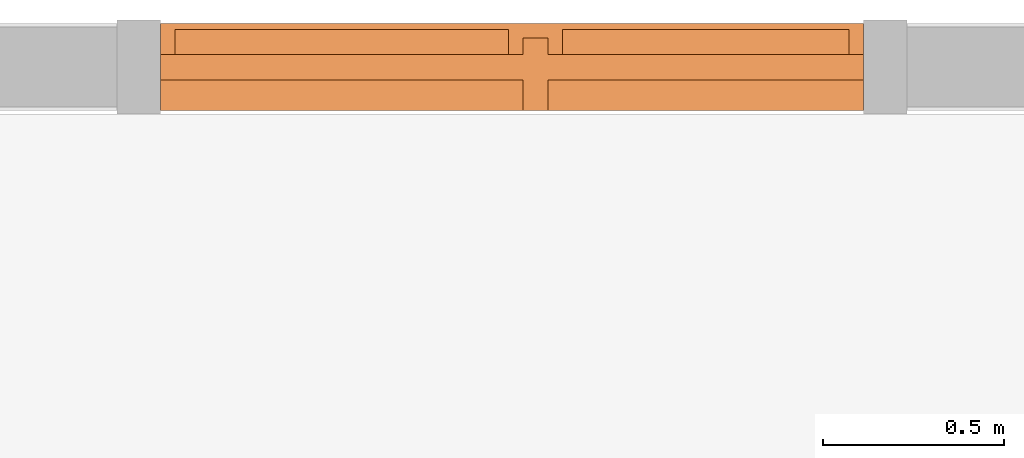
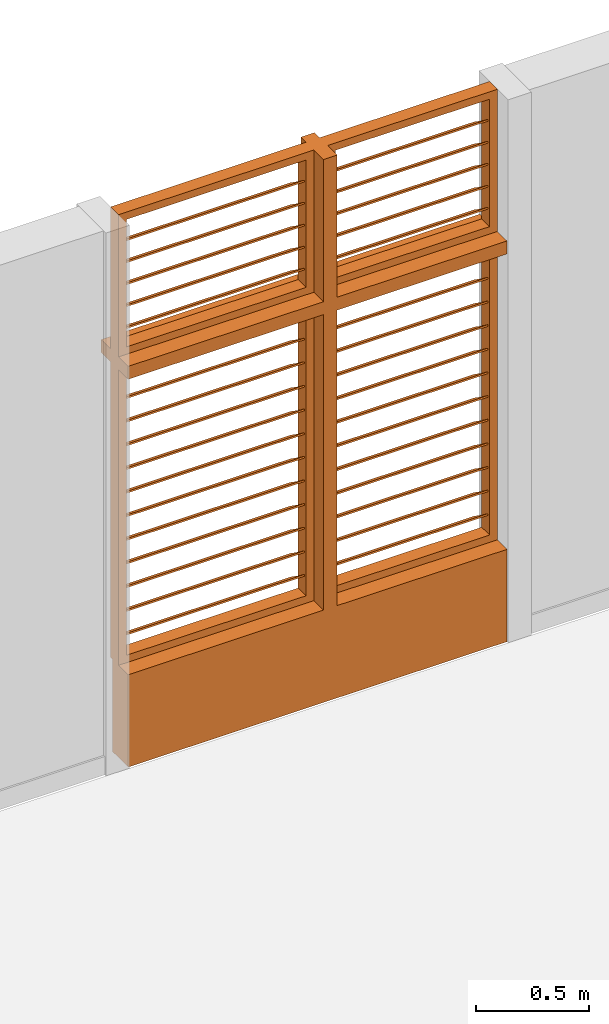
# One storey, part 14 of 15: 1 proxy.
"""IFC2X3 building model written with IfcOpenShell, lengths in metres."""

import ifcopenshell
import ifcopenshell.guid

model = None  # the IFC model being written
_history = None  # IfcOwnerHistory: only IFC2X3 demands one
_inside = {}  # id of a spatial element -> (the spatial element, [elements in it])
_under = {}  # id of a project, library or spatial element -> (it, [spatial elements below it])
_declared = {}  # id of a project -> (the project, [libraries it declares])
_typed = {}  # id of a type object -> (the type object, [elements of that type])
_made_of = {}  # id of a material, layer set ... -> (it, [elements and type objects made of it])


def new_model(schema):
    """Start an empty IFC model of exactly this schema.

    Asked for "IFC4X3", IfcOpenShell would pick the latest addendum, in which some entities
    have other attributes; the version numbers below select the first issue.
    IFC2X3 requires an IfcOwnerHistory on every rooted entity: one is made here for all.
    """
    global model, _history
    if schema == "IFC4X3":
        model = ifcopenshell.file(schema_version=(4, 3, 0, 0))
    else:
        model = ifcopenshell.file(schema=schema)
    _inside.clear()
    _under.clear()
    _declared.clear()
    _typed.clear()
    _made_of.clear()
    _history = None
    if model.schema == "IFC2X3":
        org = make("IfcOrganization", Name="unknown")
        user = make(
            "IfcPersonAndOrganization",
            ThePerson=make("IfcPerson", FamilyName="unknown"),
            TheOrganization=org,
        )
        app = make(
            "IfcApplication",
            ApplicationDeveloper=org,
            Version="unknown",
            ApplicationFullName="unknown",
            ApplicationIdentifier="unknown",
        )
        _history = make(
            "IfcOwnerHistory",
            OwningUser=user,
            OwningApplication=app,
            ChangeAction="ADDED",
            CreationDate=0,
        )
    return model


def make(cls, **values):
    """One entity of the class cls with the attributes given. An attribute that is None is left unset."""
    return model.create_entity(
        cls, **{name: value for name, value in values.items() if value is not None}
    )


def entity(cls, *values):
    """Any entity or typed value of the class cls, its attributes in the order of the schema. None: left unset."""
    e = model.create_entity(cls)
    for i, value in enumerate(values):
        if value is not None:
            e[i] = value
    return e


def rooted(cls, **values):
    """An entity with a GlobalId (a new one), such as an element, a storey or a relation."""
    return make(cls, GlobalId=ifcopenshell.guid.new(), OwnerHistory=_history, **values)


def si_unit(unit_type, name, prefix=None):
    """IfcSIUnit, for example si_unit("LENGTHUNIT", "METRE", prefix="MILLI")."""
    return make("IfcSIUnit", UnitType=unit_type, Prefix=prefix, Name=name)


def converted_unit(unit_type, name, factor, base, dimensions=None, offset=None):
    """IfcConversionBasedUnit, such as the inch: factor (a typed value) times the base unit."""
    return make(
        "IfcConversionBasedUnit"
        if offset is None
        else "IfcConversionBasedUnitWithOffset",
        ConversionOffset=offset,
        Dimensions=None
        if dimensions is None
        else entity("IfcDimensionalExponents", *dimensions),
        UnitType=unit_type,
        Name=name,
        ConversionFactor=make(
            "IfcMeasureWithUnit", ValueComponent=factor, UnitComponent=base
        ),
    )


def derived_unit(unit_type, elements):
    """IfcDerivedUnit: a product of units, each with its exponent."""
    return make(
        "IfcDerivedUnit",
        Elements=[
            make("IfcDerivedUnitElement", Unit=unit, Exponent=power)
            for unit, power in elements
        ],
        UnitType=unit_type,
    )


def assignment(units):
    """IfcUnitAssignment: the units of a project."""
    return None if units is None else make("IfcUnitAssignment", Units=units)


def point(xyz):
    """IfcCartesianPoint."""
    return None if xyz is None else make("IfcCartesianPoint", Coordinates=xyz)


def direction(xyz):
    """IfcDirection."""
    return None if xyz is None else make("IfcDirection", DirectionRatios=xyz)


def frame(location, z_axis=None, x_axis=None):
    """IfcAxis2Placement3D, a coordinate frame: its origin and axes. An axis left out is left unset."""
    return make(
        "IfcAxis2Placement3D",
        Location=point(location),
        Axis=direction(z_axis),
        RefDirection=direction(x_axis),
    )


def frame_2d(location, x_axis=None):
    """IfcAxis2Placement2D, a coordinate frame in the plane: its origin and x axis."""
    return make(
        "IfcAxis2Placement2D", Location=point(location), RefDirection=direction(x_axis)
    )


def origin():
    """The frame at (0, 0, 0) with its axes left unset."""
    return frame((0.0, 0.0, 0.0))


def origin_2d_with_axis():
    """The frame at (0, 0) in the plane with the x axis (1, 0) written out."""
    return frame_2d((0.0, 0.0), x_axis=(1.0, 0.0))


def place(relative_to, where):
    """IfcLocalPlacement: puts the frame where relative to a parent placement (None: the world)."""
    return make(
        "IfcLocalPlacement", PlacementRelTo=relative_to, RelativePlacement=where
    )


def context(
    kind, dimensions, precision=None, world=None, true_north=None, identifier=None
):
    """IfcGeometricRepresentationContext, for example the 3D "Model" context."""
    return make(
        "IfcGeometricRepresentationContext",
        ContextIdentifier=identifier,
        ContextType=kind,
        CoordinateSpaceDimension=dimensions,
        Precision=precision,
        WorldCoordinateSystem=world,
        TrueNorth=true_north,
    )


def subcontext(parent, identifier, kind, view, scale=None):
    """IfcGeometricRepresentationSubContext, for example "Body" below "Model"."""
    return make(
        "IfcGeometricRepresentationSubContext",
        ContextIdentifier=identifier,
        ContextType=kind,
        ParentContext=parent,
        TargetScale=scale,
        TargetView=view,
    )


def project(units=None, contexts=None):
    """IfcProject with its units and contexts."""
    return rooted(
        "IfcProject",
        Name="project",
        RepresentationContexts=contexts,
        UnitsInContext=assignment(units),
    )


def spatial(cls, under=None, at=None, **own):
    """A site, building, storey or space (cls), placed at a placement, below another one or the project."""
    s = rooted(cls, ObjectPlacement=at, **own)
    if under is not None:
        _under.setdefault(under.id(), (under, []))[1].append(s)
    return s


def polyline(points):
    """IfcPolyline through the points."""
    return make("IfcPolyline", Points=[point(p) for p in points])


def profile(cls, at=None, kind="AREA", **sizes):
    """A parametric profile (cls). Its sizes go by their IFC names, for example OverallWidth=200.0."""
    return make(cls, ProfileType=kind, Position=at, **sizes)


def rectangle(**sizes):
    """IfcRectangleProfileDef."""
    return profile("IfcRectangleProfileDef", **sizes)


def outline(outer, holes=None, kind="AREA"):
    """IfcArbitraryClosedProfileDef: a profile drawn as a closed curve; with holes, ...WithVoids."""
    if holes is None:
        return make("IfcArbitraryClosedProfileDef", ProfileType=kind, OuterCurve=outer)
    return make(
        "IfcArbitraryProfileDefWithVoids",
        ProfileType=kind,
        OuterCurve=outer,
        InnerCurves=holes,
    )


def extrude(swept, where, along, depth):
    """IfcExtrudedAreaSolid: the profile swept, set in the frame where, extruded along a direction by depth."""
    return make(
        "IfcExtrudedAreaSolid",
        SweptArea=swept,
        Position=where,
        ExtrudedDirection=direction(along),
        Depth=depth,
    )


def shape(context_of_items, identifier, shape_type, items):
    """IfcShapeRepresentation: the items that make up one representation, for example the "Body"."""
    return make(
        "IfcShapeRepresentation",
        ContextOfItems=context_of_items,
        RepresentationIdentifier=identifier,
        RepresentationType=shape_type,
        Items=items,
    )


def source(mapping_origin, context_of_items, identifier, shape_type, items):
    """IfcRepresentationMap: a shape defined once, which mapped items show again and again."""
    return make(
        "IfcRepresentationMap",
        MappingOrigin=mapping_origin,
        MappedRepresentation=shape(context_of_items, identifier, shape_type, items),
    )


def transform(
    local_origin,
    x_axis=None,
    y_axis=None,
    z_axis=None,
    scale=None,
    scale2=None,
    scale3=None,
    uniform=True,
):
    """IfcCartesianTransformationOperator3D, or its non-uniform kind. x_axis, y_axis, z_axis: its Axis1, 2, 3."""
    if uniform:
        return make(
            "IfcCartesianTransformationOperator3D",
            Axis1=direction(x_axis),
            Axis2=direction(y_axis),
            LocalOrigin=point(local_origin),
            Scale=scale,
            Axis3=direction(z_axis),
        )
    return make(
        "IfcCartesianTransformationOperator3DnonUniform",
        Axis1=direction(x_axis),
        Axis2=direction(y_axis),
        LocalOrigin=point(local_origin),
        Scale=scale,
        Axis3=direction(z_axis),
        Scale2=scale2,
        Scale3=scale3,
    )


def mapped(mapping_source, mapping_target):
    """IfcMappedItem: shows the shape of a source again, moved by a transform."""
    return make(
        "IfcMappedItem", MappingSource=mapping_source, MappingTarget=mapping_target
    )


def material(Name=None, Category=None):
    """IfcMaterial."""
    return make("IfcMaterial", Name=Name, Category=Category)


def material_list(materials):
    """IfcMaterialList."""
    return make("IfcMaterialList", Materials=materials)


def made_of(thing, what):
    """Note that an element or type object is made of a material, layer set ...; save() writes the relation."""
    if what is not None:
        _made_of.setdefault(what.id(), (what, []))[1].append(thing)
    return thing


def type_object(cls, material=None, **own):
    """A type object (cls), such as IfcWallType, which elements share."""
    return made_of(rooted(cls, **own), material)


def type_shapes(of_type, sources):
    """Give a type object the sources (RepresentationMaps) that its elements show as mapped items."""
    of_type.RepresentationMaps = sources


def element(
    cls,
    number,
    at=None,
    inside=None,
    cuts=None,
    type_object=None,
    material=None,
    context=None,
    identifier="Body",
    shape_type=None,
    held_by="IfcProductDefinitionShape",
    body=None,
    shapes=None,
    **own,
):
    """One element of the class cls, such as IfcWall. Its Tag is "e" and its number.

    at: its placement. inside: the storey or other place that contains it. cuts: it is an
    opening in that element (IfcRelVoidsElement). A single representation is given by context,
    identifier, shape_type and body (its items); several are given by shapes. held_by: the class
    of the entity that holds the representations. save() writes the other relations.
    """
    e = rooted(cls, Tag="e%d" % number, ObjectPlacement=at, **own)
    if body is not None:
        shapes = [shape(context, identifier, shape_type, body)]
    if shapes is not None:
        e.Representation = make(held_by, Representations=shapes)
    if inside is not None:
        _inside.setdefault(inside.id(), (inside, []))[1].append(e)
    if cuts is not None:
        rooted(
            "IfcRelVoidsElement", RelatingBuildingElement=cuts, RelatedOpeningElement=e
        )
    if type_object is not None:
        _typed.setdefault(type_object.id(), (type_object, []))[1].append(e)
    return made_of(e, material)


def aggregate(whole, parts):
    """IfcRelAggregates: a whole, such as a stair, and the parts it consists of."""
    return rooted("IfcRelAggregates", RelatingObject=whole, RelatedObjects=parts)


def save(model, path):
    """Write the relations noted so far, then the file.

    IfcRelAggregates (storeys below a building ...), IfcRelContainedInSpatialStructure (elements
    in a storey), IfcRelDefinesByType, IfcRelAssociatesMaterial and IfcRelDeclares: one each for
    every whole, place, type object, material and project.
    """
    for whole, parts in _under.values():
        aggregate(whole, parts)
    for where, things in _inside.values():
        rooted(
            "IfcRelContainedInSpatialStructure",
            RelatedElements=things,
            RelatingStructure=where,
        )
    for kind, things in _typed.values():
        rooted("IfcRelDefinesByType", RelatedObjects=things, RelatingType=kind)
    for what, things in _made_of.values():
        rooted("IfcRelAssociatesMaterial", RelatedObjects=things, RelatingMaterial=what)
    for by, libraries in _declared.values():
        rooted("IfcRelDeclares", RelatingContext=by, RelatedDefinitions=libraries)
    model.write(path)


model = new_model("IFC2X3")

# Units and contexts
model_context = context("Model", 3, precision=1e-05, world=origin(), true_north=direction((6.12303176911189e-17, 1.0)))
body_context = subcontext(model_context, "Body", "Model", "MODEL_VIEW")
ifc_project = project(units=[si_unit("LENGTHUNIT", "METRE"), si_unit("AREAUNIT", "SQUARE_METRE"), si_unit("VOLUMEUNIT", "CUBIC_METRE"), converted_unit("PLANEANGLEUNIT", "DEGREE", entity("IfcRatioMeasure", 0.0174532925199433), si_unit("PLANEANGLEUNIT", "RADIAN"), dimensions=[0, 0, 0, 0, 0, 0, 0]), si_unit("MASSUNIT", "GRAM", prefix="KILO"), derived_unit("MASSDENSITYUNIT", [(si_unit("MASSUNIT", "GRAM", prefix="KILO"), 1), (si_unit("LENGTHUNIT", "METRE"), -3)]), si_unit("TIMEUNIT", "SECOND"), si_unit("FREQUENCYUNIT", "HERTZ"), si_unit("THERMODYNAMICTEMPERATUREUNIT", "DEGREE_CELSIUS"), derived_unit("THERMALTRANSMITTANCEUNIT", [(si_unit("MASSUNIT", "GRAM", prefix="KILO"), 1), (si_unit("THERMODYNAMICTEMPERATUREUNIT", "KELVIN"), -1), (si_unit("TIMEUNIT", "SECOND"), -3)]), derived_unit("VOLUMETRICFLOWRATEUNIT", [(si_unit("LENGTHUNIT", "METRE"), 3), (si_unit("TIMEUNIT", "SECOND"), -1)]), si_unit("ELECTRICCURRENTUNIT", "AMPERE"), si_unit("ELECTRICVOLTAGEUNIT", "VOLT"), si_unit("POWERUNIT", "WATT"), si_unit("FORCEUNIT", "NEWTON", prefix="KILO"), si_unit("ILLUMINANCEUNIT", "LUX"), si_unit("LUMINOUSFLUXUNIT", "LUMEN"), si_unit("LUMINOUSINTENSITYUNIT", "CANDELA"), derived_unit("USERDEFINED", [(si_unit("MASSUNIT", "GRAM", prefix="KILO"), -1), (si_unit("LENGTHUNIT", "METRE"), -2), (si_unit("TIMEUNIT", "SECOND"), 3), (si_unit("LUMINOUSFLUXUNIT", "LUMEN"), 1)]), derived_unit("LINEARVELOCITYUNIT", [(si_unit("LENGTHUNIT", "METRE"), 1), (si_unit("TIMEUNIT", "SECOND"), -1)]), si_unit("PRESSUREUNIT", "PASCAL"), derived_unit("USERDEFINED", [(si_unit("LENGTHUNIT", "METRE"), -2), (si_unit("MASSUNIT", "GRAM", prefix="KILO"), 1), (si_unit("TIMEUNIT", "SECOND"), -2)])], contexts=[model_context])

# Site, building, storey
site_placement = place(None, origin())
site = spatial("IfcSite", under=ifc_project, at=site_placement, Name="Surface", CompositionType="ELEMENT")
building_placement = place(site_placement, origin())
building = spatial("IfcBuilding", under=site, at=building_placement, Name="ExPREF", CompositionType="ELEMENT")
storey_placement = place(building_placement, frame((0.0, 0.0, 7.83)))
storey = spatial("IfcBuildingStorey", under=building, at=storey_placement, Name="R+2", CompositionType="ELEMENT", Elevation=7.83)

# Proxy
ifc_material_1 = material(Name="AA-Aluminium")
ifc_material_2 = material(Name="AA-vitrage")
ifc_material_3 = material(Name="AA-bois menuiseries")
ifc_material_list_1 = material_list([ifc_material_1, ifc_material_2, ifc_material_3])
ifc_material_list_2 = material_list([ifc_material_1, ifc_material_2, ifc_material_3])
building_element_proxy_type = type_object("IfcBuildingElementProxyType", Name="R+2 naco + naco", PredefinedType="NOTDEFINED", material=ifc_material_list_2)
shared_shape = source(origin(), body_context, "Body", "SweptSolid", [
    extrude(rectangle(XDim=0.00770243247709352, YDim=0.0205728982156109, at=frame_2d((-2.2659825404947e-16, -1.47451495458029e-16), x_axis=(1.0, 0.0))), frame((0.139999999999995, 0.107700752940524, 2.89046018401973), z_axis=(1.0, 0.0, 0.0), x_axis=(0.0, 0.57357643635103, 0.819152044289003)), (0.0, 0.0, 1.0), 0.790000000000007),
    extrude(rectangle(XDim=0.00499999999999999, YDim=0.129427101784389, at=frame_2d((-6.93889390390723e-18, -4.33680868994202e-18), x_axis=(0.0, 1.0))), frame((0.139999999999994, 0.169165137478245, 2.84748191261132), z_axis=(1.0, 0.0, 0.0), x_axis=(0.0, 0.819152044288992, -0.573576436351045)), (0.0, 0.0, 1.0), 0.790000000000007),
    extrude(rectangle(XDim=0.00770243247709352, YDim=0.0205728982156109, at=frame_2d((-2.2659825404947e-16, -1.47451495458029e-16), x_axis=(1.0, 0.0))), frame((-0.930000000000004, 0.107700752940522, 2.89046018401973), z_axis=(1.0, 0.0, 0.0), x_axis=(0.0, 0.57357643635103, 0.819152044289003)), (0.0, 0.0, 1.0), 0.920000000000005),
    extrude(rectangle(XDim=0.00499999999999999, YDim=0.129427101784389, at=frame_2d((-6.93889390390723e-18, -4.33680868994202e-18), x_axis=(0.0, 1.0))), frame((-0.930000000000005, 0.169165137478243, 2.84748191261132), z_axis=(1.0, 0.0, 0.0), x_axis=(0.0, 0.819152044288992, -0.573576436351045)), (0.0, 0.0, 1.0), 0.920000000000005),
    extrude(rectangle(XDim=0.0077024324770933, YDim=0.0205728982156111, at=frame_2d((-1.45283091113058e-17, 2.08166817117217e-17), x_axis=(1.0, 0.0))), frame((-0.930000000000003, 0.107700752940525, 2.04446018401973), z_axis=(1.0, 0.0, 0.0), x_axis=(0.0, 0.573576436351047, 0.819152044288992)), (0.0, 0.0, 1.0), 0.920000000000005),
    extrude(rectangle(XDim=0.00499999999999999, YDim=0.129427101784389, at=frame_2d((1.38777878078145e-17, 8.45677694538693e-18), x_axis=(0.0, 1.0))), frame((-0.930000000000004, 0.169165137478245, 2.00148191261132), z_axis=(1.0, 0.0, 0.0), x_axis=(0.0, 0.819152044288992, -0.573576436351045)), (0.0, 0.0, 1.0), 0.920000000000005),
    extrude(rectangle(XDim=0.00770243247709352, YDim=0.0205728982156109, at=frame_2d((2.07082614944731e-16, 1.75207071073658e-16), x_axis=(1.0, 0.0))), frame((-0.930000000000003, 0.107700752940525, 1.91646018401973), z_axis=(1.0, 0.0, 0.0), x_axis=(0.0, 0.57357643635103, 0.819152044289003)), (0.0, 0.0, 1.0), 0.920000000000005),
    extrude(rectangle(XDim=0.00499999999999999, YDim=0.129427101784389, at=frame_2d((1.38777878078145e-17, 8.45677694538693e-18), x_axis=(0.0, 1.0))), frame((-0.930000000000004, 0.169165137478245, 1.87348191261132), z_axis=(1.0, 0.0, 0.0), x_axis=(0.0, 0.819152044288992, -0.573576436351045)), (0.0, 0.0, 1.0), 0.920000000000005),
    extrude(rectangle(XDim=0.00770243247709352, YDim=0.0205728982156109, at=frame_2d((-2.36139233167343e-16, -1.34441069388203e-16), x_axis=(1.0, 0.0))), frame((-0.930000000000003, 0.107700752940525, 1.78846018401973), z_axis=(1.0, 0.0, 0.0), x_axis=(0.0, 0.57357643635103, 0.819152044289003)), (0.0, 0.0, 1.0), 0.920000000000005),
    extrude(rectangle(XDim=0.00499999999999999, YDim=0.129427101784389, at=frame_2d((1.38777878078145e-17, 8.45677694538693e-18), x_axis=(0.0, 1.0))), frame((-0.930000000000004, 0.169165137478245, 1.74548191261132), z_axis=(1.0, 0.0, 0.0), x_axis=(0.0, 0.819152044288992, -0.573576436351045)), (0.0, 0.0, 1.0), 0.920000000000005),
    extrude(rectangle(XDim=0.00770243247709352, YDim=0.0205728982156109, at=frame_2d((2.07082614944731e-16, 1.75207071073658e-16), x_axis=(1.0, 0.0))), frame((-0.930000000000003, 0.107700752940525, 1.66046018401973), z_axis=(1.0, 0.0, 0.0), x_axis=(0.0, 0.57357643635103, 0.819152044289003)), (0.0, 0.0, 1.0), 0.920000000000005),
    extrude(rectangle(XDim=0.00499999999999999, YDim=0.129427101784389, at=frame_2d((1.38777878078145e-17, 8.45677694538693e-18), x_axis=(0.0, 1.0))), frame((-0.930000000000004, 0.169165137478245, 1.61748191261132), z_axis=(1.0, 0.0, 0.0), x_axis=(0.0, 0.819152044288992, -0.573576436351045)), (0.0, 0.0, 1.0), 0.920000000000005),
    extrude(rectangle(XDim=0.00770243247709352, YDim=0.0205728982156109, at=frame_2d((-1.45283091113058e-17, 2.08166817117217e-17), x_axis=(1.0, 0.0))), frame((-0.930000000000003, 0.107700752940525, 1.53246018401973), z_axis=(1.0, 0.0, 0.0), x_axis=(0.0, 0.57357643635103, 0.819152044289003)), (0.0, 0.0, 1.0), 0.920000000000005),
    extrude(rectangle(XDim=0.00499999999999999, YDim=0.129427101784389, at=frame_2d((1.38777878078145e-17, 8.45677694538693e-18), x_axis=(0.0, 1.0))), frame((-0.930000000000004, 0.169165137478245, 1.48948191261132), z_axis=(1.0, 0.0, 0.0), x_axis=(0.0, 0.819152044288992, -0.573576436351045)), (0.0, 0.0, 1.0), 0.920000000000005),
    extrude(rectangle(XDim=0.00770243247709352, YDim=0.0205728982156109, at=frame_2d((-1.45283091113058e-17, 2.08166817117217e-17), x_axis=(1.0, 0.0))), frame((-0.930000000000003, 0.107700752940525, 1.40446018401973), z_axis=(1.0, 0.0, 0.0), x_axis=(0.0, 0.57357643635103, 0.819152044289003)), (0.0, 0.0, 1.0), 0.920000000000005),
    extrude(rectangle(XDim=0.00499999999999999, YDim=0.129427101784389, at=frame_2d((1.38777878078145e-17, 8.45677694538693e-18), x_axis=(0.0, 1.0))), frame((-0.930000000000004, 0.169165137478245, 1.36148191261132), z_axis=(1.0, 0.0, 0.0), x_axis=(0.0, 0.819152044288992, -0.573576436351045)), (0.0, 0.0, 1.0), 0.920000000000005),
    extrude(rectangle(XDim=0.00770243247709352, YDim=0.0205728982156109, at=frame_2d((-1.45283091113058e-17, 2.08166817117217e-17), x_axis=(1.0, 0.0))), frame((-0.930000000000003, 0.107700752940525, 1.27646018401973), z_axis=(1.0, 0.0, 0.0), x_axis=(0.0, 0.57357643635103, 0.819152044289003)), (0.0, 0.0, 1.0), 0.920000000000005),
    extrude(rectangle(XDim=0.00499999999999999, YDim=0.129427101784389, at=frame_2d((1.38777878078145e-17, 8.45677694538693e-18), x_axis=(0.0, 1.0))), frame((-0.930000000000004, 0.169165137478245, 1.23348191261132), z_axis=(1.0, 0.0, 0.0), x_axis=(0.0, 0.819152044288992, -0.573576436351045)), (0.0, 0.0, 1.0), 0.920000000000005),
    extrude(rectangle(XDim=0.00770243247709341, YDim=0.020572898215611, at=frame_2d((-7.00394603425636e-17, -1.90819582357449e-17), x_axis=(1.0, 0.0))), frame((-0.930000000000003, 0.107700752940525, 1.14846018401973), z_axis=(1.0, 0.0, 0.0), x_axis=(0.0, 0.573576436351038, 0.819152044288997)), (0.0, 0.0, 1.0), 0.920000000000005),
    extrude(rectangle(XDim=0.00500000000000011, YDim=0.129427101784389, at=frame_2d((9.0205620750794e-17, -1.03649727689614e-16), x_axis=(0.0, 1.0))), frame((-0.930000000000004, 0.169165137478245, 1.10548191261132), z_axis=(1.0, 0.0, 0.0), x_axis=(0.0, 0.819152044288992, -0.573576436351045)), (0.0, 0.0, 1.0), 0.920000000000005),
    extrude(rectangle(XDim=0.00770243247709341, YDim=0.020572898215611, at=frame_2d((-7.00394603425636e-17, -1.90819582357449e-17), x_axis=(1.0, 0.0))), frame((-0.930000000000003, 0.107700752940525, 1.02046018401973), z_axis=(1.0, 0.0, 0.0), x_axis=(0.0, 0.573576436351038, 0.819152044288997)), (0.0, 0.0, 1.0), 0.920000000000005),
    extrude(rectangle(XDim=0.00500000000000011, YDim=0.129427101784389, at=frame_2d((9.0205620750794e-17, -1.03649727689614e-16), x_axis=(0.0, 1.0))), frame((-0.930000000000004, 0.169165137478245, 0.977481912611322), z_axis=(1.0, 0.0, 0.0), x_axis=(0.0, 0.819152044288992, -0.573576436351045)), (0.0, 0.0, 1.0), 0.920000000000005),
    extrude(rectangle(XDim=0.00770243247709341, YDim=0.020572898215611, at=frame_2d((-7.00394603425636e-17, -1.90819582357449e-17), x_axis=(1.0, 0.0))), frame((-0.930000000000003, 0.107700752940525, 0.892460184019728), z_axis=(1.0, 0.0, 0.0), x_axis=(0.0, 0.573576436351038, 0.819152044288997)), (0.0, 0.0, 1.0), 0.920000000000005),
    extrude(rectangle(XDim=0.00500000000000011, YDim=0.129427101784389, at=frame_2d((9.0205620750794e-17, -1.03649727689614e-16), x_axis=(0.0, 1.0))), frame((-0.930000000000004, 0.169165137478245, 0.849481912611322), z_axis=(1.0, 0.0, 0.0), x_axis=(0.0, 0.819152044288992, -0.573576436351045)), (0.0, 0.0, 1.0), 0.920000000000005),
    extrude(rectangle(XDim=0.00770243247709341, YDim=0.020572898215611, at=frame_2d((-7.00394603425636e-17, -1.90819582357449e-17), x_axis=(1.0, 0.0))), frame((-0.930000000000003, 0.107700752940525, 0.764460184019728), z_axis=(1.0, 0.0, 0.0), x_axis=(0.0, 0.573576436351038, 0.819152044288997)), (0.0, 0.0, 1.0), 0.920000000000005),
    extrude(rectangle(XDim=0.00499999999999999, YDim=0.129427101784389, at=frame_2d((1.38777878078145e-17, 8.45677694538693e-18), x_axis=(0.0, 1.0))), frame((-0.930000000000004, 0.169165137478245, 0.721481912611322), z_axis=(1.0, 0.0, 0.0), x_axis=(0.0, 0.819152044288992, -0.573576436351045)), (0.0, 0.0, 1.0), 0.920000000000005),
    extrude(rectangle(XDim=0.00770243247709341, YDim=0.020572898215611, at=frame_2d((-7.00394603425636e-17, -1.90819582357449e-17), x_axis=(1.0, 0.0))), frame((-0.930000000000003, 0.107700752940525, 0.636460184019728), z_axis=(1.0, 0.0, 0.0), x_axis=(0.0, 0.573576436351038, 0.819152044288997)), (0.0, 0.0, 1.0), 0.920000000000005),
    extrude(rectangle(XDim=0.00499999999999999, YDim=0.129427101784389, at=frame_2d((6.93889390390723e-18, 1.04083408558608e-17), x_axis=(0.0, 1.0))), frame((-0.930000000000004, 0.169165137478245, 0.593481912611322), z_axis=(1.0, 0.0, 0.0), x_axis=(0.0, 0.819152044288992, -0.573576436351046)), (0.0, 0.0, 1.0), 0.920000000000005),
    extrude(rectangle(XDim=0.00770243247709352, YDim=0.0205728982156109, at=frame_2d((2.07082614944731e-16, 1.75207071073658e-16), x_axis=(1.0, 0.0))), frame((0.139999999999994, 0.107700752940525, 2.04446018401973), z_axis=(1.0, 0.0, 0.0), x_axis=(0.0, 0.57357643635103, 0.819152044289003)), (0.0, 0.0, 1.0), 0.790000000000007),
    extrude(rectangle(XDim=0.00499999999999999, YDim=0.129427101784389, at=frame_2d((-6.93889390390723e-18, -4.33680868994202e-18), x_axis=(0.0, 1.0))), frame((0.139999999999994, 0.169165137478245, 2.00148191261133), z_axis=(1.0, 0.0, 0.0), x_axis=(0.0, 0.819152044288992, -0.573576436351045)), (0.0, 0.0, 1.0), 0.790000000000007),
    extrude(rectangle(XDim=0.0077024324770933, YDim=0.0205728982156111, at=frame_2d((-1.45283091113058e-17, 2.08166817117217e-17), x_axis=(1.0, 0.0))), frame((0.139999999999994, 0.107700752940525, 1.91646018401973), z_axis=(1.0, 0.0, 0.0), x_axis=(0.0, 0.573576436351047, 0.819152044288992)), (0.0, 0.0, 1.0), 0.790000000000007),
    extrude(rectangle(XDim=0.00499999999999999, YDim=0.129427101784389, at=frame_2d((-6.93889390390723e-18, -4.33680868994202e-18), x_axis=(0.0, 1.0))), frame((0.139999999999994, 0.169165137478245, 1.87348191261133), z_axis=(1.0, 0.0, 0.0), x_axis=(0.0, 0.819152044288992, -0.573576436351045)), (0.0, 0.0, 1.0), 0.790000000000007),
    extrude(rectangle(XDim=0.0077024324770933, YDim=0.0205728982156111, at=frame_2d((-1.45283091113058e-17, 2.08166817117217e-17), x_axis=(1.0, 0.0))), frame((0.139999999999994, 0.107700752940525, 1.78846018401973), z_axis=(1.0, 0.0, 0.0), x_axis=(0.0, 0.573576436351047, 0.819152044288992)), (0.0, 0.0, 1.0), 0.790000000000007),
    extrude(rectangle(XDim=0.00499999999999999, YDim=0.129427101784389, at=frame_2d((-6.93889390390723e-18, -4.33680868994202e-18), x_axis=(0.0, 1.0))), frame((0.139999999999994, 0.169165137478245, 1.74548191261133), z_axis=(1.0, 0.0, 0.0), x_axis=(0.0, 0.819152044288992, -0.573576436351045)), (0.0, 0.0, 1.0), 0.790000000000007),
    extrude(rectangle(XDim=0.0077024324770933, YDim=0.0205728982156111, at=frame_2d((-1.45283091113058e-17, 2.08166817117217e-17), x_axis=(1.0, 0.0))), frame((0.139999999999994, 0.107700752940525, 1.66046018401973), z_axis=(1.0, 0.0, 0.0), x_axis=(0.0, 0.573576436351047, 0.819152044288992)), (0.0, 0.0, 1.0), 0.790000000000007),
    extrude(rectangle(XDim=0.00499999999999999, YDim=0.129427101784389, at=frame_2d((-6.93889390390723e-18, -4.33680868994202e-18), x_axis=(0.0, 1.0))), frame((0.139999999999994, 0.169165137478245, 1.61748191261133), z_axis=(1.0, 0.0, 0.0), x_axis=(0.0, 0.819152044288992, -0.573576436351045)), (0.0, 0.0, 1.0), 0.790000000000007),
    extrude(rectangle(XDim=0.0077024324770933, YDim=0.0205728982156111, at=frame_2d((-1.45283091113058e-17, 2.08166817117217e-17), x_axis=(1.0, 0.0))), frame((0.139999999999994, 0.107700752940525, 1.53246018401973), z_axis=(1.0, 0.0, 0.0), x_axis=(0.0, 0.573576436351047, 0.819152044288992)), (0.0, 0.0, 1.0), 0.790000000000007),
    extrude(rectangle(XDim=0.00499999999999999, YDim=0.129427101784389, at=frame_2d((-6.93889390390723e-18, -4.33680868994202e-18), x_axis=(0.0, 1.0))), frame((0.139999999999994, 0.169165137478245, 1.48948191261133), z_axis=(1.0, 0.0, 0.0), x_axis=(0.0, 0.819152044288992, -0.573576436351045)), (0.0, 0.0, 1.0), 0.790000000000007),
    extrude(rectangle(XDim=0.0077024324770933, YDim=0.0205728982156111, at=frame_2d((-1.45283091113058e-17, 2.08166817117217e-17), x_axis=(1.0, 0.0))), frame((0.139999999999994, 0.107700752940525, 1.40446018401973), z_axis=(1.0, 0.0, 0.0), x_axis=(0.0, 0.573576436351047, 0.819152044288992)), (0.0, 0.0, 1.0), 0.790000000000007),
    extrude(rectangle(XDim=0.00499999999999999, YDim=0.129427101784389, at=frame_2d((-6.93889390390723e-18, -4.33680868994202e-18), x_axis=(0.0, 1.0))), frame((0.139999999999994, 0.169165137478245, 1.36148191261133), z_axis=(1.0, 0.0, 0.0), x_axis=(0.0, 0.819152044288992, -0.573576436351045)), (0.0, 0.0, 1.0), 0.790000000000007),
    extrude(rectangle(XDim=0.0077024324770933, YDim=0.0205728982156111, at=frame_2d((-1.45283091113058e-17, 2.08166817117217e-17), x_axis=(1.0, 0.0))), frame((0.139999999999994, 0.107700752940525, 1.27646018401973), z_axis=(1.0, 0.0, 0.0), x_axis=(0.0, 0.573576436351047, 0.819152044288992)), (0.0, 0.0, 1.0), 0.790000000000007),
    extrude(rectangle(XDim=0.00499999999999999, YDim=0.129427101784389, at=frame_2d((-6.93889390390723e-18, -4.33680868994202e-18), x_axis=(0.0, 1.0))), frame((0.139999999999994, 0.169165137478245, 1.23348191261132), z_axis=(1.0, 0.0, 0.0), x_axis=(0.0, 0.819152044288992, -0.573576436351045)), (0.0, 0.0, 1.0), 0.790000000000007),
    extrude(rectangle(XDim=0.00770243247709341, YDim=0.020572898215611, at=frame_2d((-7.00394603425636e-17, -1.90819582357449e-17), x_axis=(1.0, 0.0))), frame((0.139999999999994, 0.107700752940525, 1.14846018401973), z_axis=(1.0, 0.0, 0.0), x_axis=(0.0, 0.573576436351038, 0.819152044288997)), (0.0, 0.0, 1.0), 0.790000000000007),
    extrude(rectangle(XDim=0.00499999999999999, YDim=0.129427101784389, at=frame_2d((-6.93889390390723e-18, -4.33680868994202e-18), x_axis=(0.0, 1.0))), frame((0.139999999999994, 0.169165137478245, 1.10548191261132), z_axis=(1.0, 0.0, 0.0), x_axis=(0.0, 0.819152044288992, -0.573576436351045)), (0.0, 0.0, 1.0), 0.790000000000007),
    extrude(rectangle(XDim=0.00770243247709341, YDim=0.020572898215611, at=frame_2d((-7.00394603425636e-17, -1.90819582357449e-17), x_axis=(1.0, 0.0))), frame((0.139999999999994, 0.107700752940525, 1.02046018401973), z_axis=(1.0, 0.0, 0.0), x_axis=(0.0, 0.573576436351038, 0.819152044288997)), (0.0, 0.0, 1.0), 0.790000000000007),
    extrude(rectangle(XDim=0.00499999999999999, YDim=0.129427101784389, at=frame_2d((-6.93889390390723e-18, -4.33680868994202e-18), x_axis=(0.0, 1.0))), frame((0.139999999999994, 0.169165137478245, 0.977481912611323), z_axis=(1.0, 0.0, 0.0), x_axis=(0.0, 0.819152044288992, -0.573576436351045)), (0.0, 0.0, 1.0), 0.790000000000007),
    extrude(rectangle(XDim=0.00770243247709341, YDim=0.020572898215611, at=frame_2d((-7.00394603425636e-17, -1.90819582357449e-17), x_axis=(1.0, 0.0))), frame((0.139999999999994, 0.107700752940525, 0.892460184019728), z_axis=(1.0, 0.0, 0.0), x_axis=(0.0, 0.573576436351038, 0.819152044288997)), (0.0, 0.0, 1.0), 0.790000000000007),
    extrude(rectangle(XDim=0.00499999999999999, YDim=0.129427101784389, at=frame_2d((-6.93889390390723e-18, -4.33680868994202e-18), x_axis=(0.0, 1.0))), frame((0.139999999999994, 0.169165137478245, 0.849481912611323), z_axis=(1.0, 0.0, 0.0), x_axis=(0.0, 0.819152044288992, -0.573576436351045)), (0.0, 0.0, 1.0), 0.790000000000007),
    extrude(rectangle(XDim=0.00770243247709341, YDim=0.020572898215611, at=frame_2d((-7.00394603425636e-17, -1.90819582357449e-17), x_axis=(1.0, 0.0))), frame((0.139999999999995, 0.107700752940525, 0.764460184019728), z_axis=(1.0, 0.0, 0.0), x_axis=(0.0, 0.573576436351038, 0.819152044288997)), (0.0, 0.0, 1.0), 0.790000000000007),
    extrude(rectangle(XDim=0.00499999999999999, YDim=0.129427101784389, at=frame_2d((-6.93889390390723e-18, -4.33680868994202e-18), x_axis=(0.0, 1.0))), frame((0.139999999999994, 0.169165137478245, 0.721481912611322), z_axis=(1.0, 0.0, 0.0), x_axis=(0.0, 0.819152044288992, -0.573576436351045)), (0.0, 0.0, 1.0), 0.790000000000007),
    extrude(rectangle(XDim=0.00770243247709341, YDim=0.020572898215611, at=frame_2d((-7.00394603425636e-17, -1.90819582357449e-17), x_axis=(1.0, 0.0))), frame((0.139999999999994, 0.107700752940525, 0.636460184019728), z_axis=(1.0, 0.0, 0.0), x_axis=(0.0, 0.573576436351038, 0.819152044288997)), (0.0, 0.0, 1.0), 0.790000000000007),
    extrude(rectangle(XDim=0.00499999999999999, YDim=0.129427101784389, at=frame_2d((-6.93889390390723e-18, -4.11996825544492e-18), x_axis=(0.0, 1.0))), frame((0.139999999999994, 0.169165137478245, 0.593481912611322), z_axis=(1.0, 0.0, 0.0), x_axis=(0.0, 0.819152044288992, -0.573576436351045)), (0.0, 0.0, 1.0), 0.790000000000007),
    extrude(rectangle(XDim=0.00770243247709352, YDim=0.0205728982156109, at=frame_2d((-2.2659825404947e-16, -1.47451495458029e-16), x_axis=(1.0, 0.0))), frame((0.139999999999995, 0.107700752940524, 2.77146018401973), z_axis=(1.0, 0.0, 0.0), x_axis=(0.0, 0.57357643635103, 0.819152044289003)), (0.0, 0.0, 1.0), 0.790000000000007),
    extrude(rectangle(XDim=0.00499999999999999, YDim=0.129427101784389, at=frame_2d((-6.93889390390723e-18, -4.33680868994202e-18), x_axis=(0.0, 1.0))), frame((0.139999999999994, 0.169165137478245, 2.72848191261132), z_axis=(1.0, 0.0, 0.0), x_axis=(0.0, 0.819152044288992, -0.573576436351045)), (0.0, 0.0, 1.0), 0.790000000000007),
    extrude(rectangle(XDim=0.00770243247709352, YDim=0.0205728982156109, at=frame_2d((-2.2659825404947e-16, -1.47451495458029e-16), x_axis=(1.0, 0.0))), frame((-0.930000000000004, 0.107700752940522, 2.77146018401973), z_axis=(1.0, 0.0, 0.0), x_axis=(0.0, 0.57357643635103, 0.819152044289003)), (0.0, 0.0, 1.0), 0.920000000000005),
    extrude(rectangle(XDim=0.00499999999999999, YDim=0.129427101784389, at=frame_2d((-6.93889390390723e-18, -4.33680868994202e-18), x_axis=(0.0, 1.0))), frame((-0.930000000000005, 0.169165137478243, 2.72848191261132), z_axis=(1.0, 0.0, 0.0), x_axis=(0.0, 0.819152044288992, -0.573576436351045)), (0.0, 0.0, 1.0), 0.920000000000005),
    extrude(rectangle(XDim=0.00770243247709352, YDim=0.0205728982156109, at=frame_2d((-2.2659825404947e-16, -1.47451495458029e-16), x_axis=(1.0, 0.0))), frame((-0.930000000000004, 0.107700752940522, 2.65246018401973), z_axis=(1.0, 0.0, 0.0), x_axis=(0.0, 0.57357643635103, 0.819152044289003)), (0.0, 0.0, 1.0), 0.920000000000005),
    extrude(rectangle(XDim=0.00499999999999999, YDim=0.129427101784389, at=frame_2d((-6.93889390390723e-18, -4.33680868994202e-18), x_axis=(0.0, 1.0))), frame((-0.930000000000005, 0.169165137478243, 2.60948191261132), z_axis=(1.0, 0.0, 0.0), x_axis=(0.0, 0.819152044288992, -0.573576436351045)), (0.0, 0.0, 1.0), 0.920000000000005),
    extrude(rectangle(XDim=0.00770243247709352, YDim=0.0205728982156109, at=frame_2d((-2.2659825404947e-16, -1.47451495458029e-16), x_axis=(1.0, 0.0))), frame((-0.930000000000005, 0.107700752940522, 2.53346018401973), z_axis=(1.0, 0.0, 0.0), x_axis=(0.0, 0.57357643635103, 0.819152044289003)), (0.0, 0.0, 1.0), 0.920000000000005),
    extrude(rectangle(XDim=0.00499999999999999, YDim=0.129427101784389, at=frame_2d((-6.93889390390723e-18, -4.33680868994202e-18), x_axis=(0.0, 1.0))), frame((-0.930000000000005, 0.169165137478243, 2.49048191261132), z_axis=(1.0, 0.0, 0.0), x_axis=(0.0, 0.819152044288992, -0.573576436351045)), (0.0, 0.0, 1.0), 0.920000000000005),
    extrude(rectangle(XDim=0.00770243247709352, YDim=0.0205728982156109, at=frame_2d((-2.2659825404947e-16, -1.47451495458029e-16), x_axis=(1.0, 0.0))), frame((0.139999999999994, 0.107700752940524, 2.65246018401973), z_axis=(1.0, 0.0, 0.0), x_axis=(0.0, 0.57357643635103, 0.819152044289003)), (0.0, 0.0, 1.0), 0.790000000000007),
    extrude(rectangle(XDim=0.00499999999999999, YDim=0.129427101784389, at=frame_2d((-6.93889390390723e-18, -4.33680868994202e-18), x_axis=(0.0, 1.0))), frame((0.139999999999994, 0.169165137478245, 2.60948191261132), z_axis=(1.0, 0.0, 0.0), x_axis=(0.0, 0.819152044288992, -0.573576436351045)), (0.0, 0.0, 1.0), 0.790000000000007),
    extrude(rectangle(XDim=0.00770243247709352, YDim=0.0205728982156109, at=frame_2d((2.16623594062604e-16, 1.62196645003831e-16), x_axis=(1.0, 0.0))), frame((0.139999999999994, 0.107700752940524, 2.53346018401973), z_axis=(1.0, 0.0, 0.0), x_axis=(0.0, 0.57357643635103, 0.819152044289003)), (0.0, 0.0, 1.0), 0.790000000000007),
    extrude(rectangle(XDim=0.00499999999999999, YDim=0.129427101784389, at=frame_2d((-6.93889390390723e-18, -4.33680868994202e-18), x_axis=(0.0, 1.0))), frame((0.139999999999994, 0.169165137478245, 2.49048191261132), z_axis=(1.0, 0.0, 0.0), x_axis=(0.0, 0.819152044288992, -0.573576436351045)), (0.0, 0.0, 1.0), 0.790000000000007),
    extrude(rectangle(XDim=0.0077024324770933, YDim=0.0205728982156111, at=frame_2d((-4.77048955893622e-18, 8.67361737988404e-18), x_axis=(1.0, 0.0))), frame((0.139999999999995, 0.107700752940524, 2.41446018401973), z_axis=(1.0, 0.0, 0.0), x_axis=(0.0, 0.573576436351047, 0.819152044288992)), (0.0, 0.0, 1.0), 0.790000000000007),
    extrude(rectangle(XDim=0.00499999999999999, YDim=0.129427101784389, at=frame_2d((-6.93889390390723e-18, -4.33680868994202e-18), x_axis=(0.0, 1.0))), frame((0.139999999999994, 0.169165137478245, 2.37148191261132), z_axis=(1.0, 0.0, 0.0), x_axis=(0.0, 0.819152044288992, -0.573576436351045)), (0.0, 0.0, 1.0), 0.790000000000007),
    extrude(rectangle(XDim=0.00770243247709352, YDim=0.0205728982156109, at=frame_2d((-4.98732999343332e-18, 7.80625564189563e-18), x_axis=(1.0, 0.0))), frame((0.139999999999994, 0.107700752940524, 2.29546018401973), z_axis=(1.0, 0.0, 0.0), x_axis=(0.0, 0.57357643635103, 0.819152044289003)), (0.0, 0.0, 1.0), 0.790000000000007),
    extrude(rectangle(XDim=0.00499999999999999, YDim=0.129427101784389, at=frame_2d((-6.93889390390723e-18, -4.33680868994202e-18), x_axis=(0.0, 1.0))), frame((0.139999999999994, 0.169165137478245, 2.25248191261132), z_axis=(1.0, 0.0, 0.0), x_axis=(0.0, 0.819152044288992, -0.573576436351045)), (0.0, 0.0, 1.0), 0.790000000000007),
    extrude(rectangle(XDim=0.00770243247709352, YDim=0.0205728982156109, at=frame_2d((-2.2659825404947e-16, -1.47451495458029e-16), x_axis=(1.0, 0.0))), frame((-0.930000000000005, 0.107700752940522, 2.41446018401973), z_axis=(1.0, 0.0, 0.0), x_axis=(0.0, 0.57357643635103, 0.819152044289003)), (0.0, 0.0, 1.0), 0.920000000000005),
    extrude(rectangle(XDim=0.00499999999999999, YDim=0.129427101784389, at=frame_2d((-6.93889390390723e-18, -4.33680868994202e-18), x_axis=(0.0, 1.0))), frame((-0.930000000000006, 0.169165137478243, 2.37148191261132), z_axis=(1.0, 0.0, 0.0), x_axis=(0.0, 0.819152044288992, -0.573576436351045)), (0.0, 0.0, 1.0), 0.920000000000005),
    extrude(rectangle(XDim=0.00770243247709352, YDim=0.0205728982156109, at=frame_2d((2.16623594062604e-16, 1.62196645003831e-16), x_axis=(1.0, 0.0))), frame((-0.930000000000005, 0.107700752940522, 2.29546018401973), z_axis=(1.0, 0.0, 0.0), x_axis=(0.0, 0.57357643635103, 0.819152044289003)), (0.0, 0.0, 1.0), 0.920000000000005),
    extrude(rectangle(XDim=0.00499999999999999, YDim=0.129427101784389, at=frame_2d((-6.93889390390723e-18, -4.33680868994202e-18), x_axis=(0.0, 1.0))), frame((-0.930000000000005, 0.169165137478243, 2.25248191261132), z_axis=(1.0, 0.0, 0.0), x_axis=(0.0, 0.819152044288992, -0.573576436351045)), (0.0, 0.0, 1.0), 0.920000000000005),
    extrude(outline(polyline([(-0.500000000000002, -0.799999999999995), (0.500000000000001, -0.799999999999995), (0.500000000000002, 0.799999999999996), (-0.500000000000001, 0.799999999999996), (-0.500000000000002, -0.799999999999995)]), holes=[polyline([(-0.460000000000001, -0.759999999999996), (-0.460000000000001, 0.759999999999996), (0.460000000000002, 0.759999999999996), (0.460000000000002, -0.759999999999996), (-0.460000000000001, -0.759999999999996)])]), frame((-0.470000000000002, 0.085000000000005, 1.3), z_axis=(0.0, 1.0, 0.0), x_axis=(-1.0, 0.0, 0.0)), (0.0, 0.0, 1.0), 0.069999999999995),
    extrude(rectangle(XDim=1.0, YDim=0.140000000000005, at=origin_2d_with_axis()), frame((-0.470000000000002, 0.0700000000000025, 0.0), z_axis=(0.0, 0.0, 1.0), x_axis=(-1.0, 0.0, 0.0)), (0.0, 0.0, 1.0), 0.500000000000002),
    extrude(outline(polyline([(-0.435000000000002, -0.799999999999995), (0.435000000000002, -0.799999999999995), (0.435000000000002, 0.799999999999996), (-0.435000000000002, 0.799999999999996), (-0.435000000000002, -0.799999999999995)]), holes=[polyline([(-0.395000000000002, -0.759999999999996), (-0.395000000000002, 0.759999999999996), (0.395000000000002, 0.759999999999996), (0.395000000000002, -0.759999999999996), (-0.395000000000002, -0.759999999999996)])]), frame((0.534999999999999, 0.085000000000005, 1.3), z_axis=(0.0, 1.0, 0.0), x_axis=(-1.0, 0.0, 0.0)), (0.0, 0.0, 1.0), 0.069999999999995),
    extrude(outline(polyline([(-0.38500000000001, -0.5), (0.38500000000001, -0.5), (0.38500000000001, 0.5), (-0.38500000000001, 0.5), (-0.38500000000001, -0.5)]), holes=[polyline([(-0.34500000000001, -0.46), (-0.34500000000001, 0.46), (0.345000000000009, 0.46), (0.345000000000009, -0.46), (-0.34500000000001, -0.46)])]), frame((-0.47, 0.085000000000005, 2.55500000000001), z_axis=(0.0, 1.0, 0.0), x_axis=(0.0, 0.0, 1.0)), (0.0, 0.0, 1.0), 0.069999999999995),
    extrude(outline(polyline([(-0.38500000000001, -0.435000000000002), (0.38500000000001, -0.435000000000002), (0.38500000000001, 0.435000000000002), (-0.38500000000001, 0.435000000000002), (-0.38500000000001, -0.435000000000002)]), holes=[polyline([(-0.34500000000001, -0.395000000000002), (-0.34500000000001, 0.395000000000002), (0.34500000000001, 0.395000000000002), (0.34500000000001, -0.395000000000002), (-0.34500000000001, -0.395000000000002)])]), frame((0.534999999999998, 0.085000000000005, 2.555), z_axis=(0.0, 1.0, 0.0), x_axis=(0.0, 0.0, 1.0)), (0.0, 0.0, 1.0), 0.069999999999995),
    extrude(rectangle(XDim=0.0699999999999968, YDim=0.2, at=origin_2d_with_axis()), frame((0.0649999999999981, 0.1, 2.17), z_axis=(0.0, 0.0, 1.0), x_axis=(-1.0, 0.0, 0.0)), (0.0, 0.0, 1.0), 0.770000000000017),
    extrude(rectangle(XDim=0.0699999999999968, YDim=0.2, at=origin_2d_with_axis()), frame((0.0649999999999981, 0.1, 0.0), z_axis=(0.0, 0.0, 1.0), x_axis=(-1.0, 0.0, 0.0)), (0.0, 0.0, 1.0), 2.1),
    extrude(rectangle(XDim=0.870000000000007, YDim=0.140000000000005, at=origin_2d_with_axis()), frame((0.535, 0.0700000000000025, 0.0), z_axis=(0.0, 0.0, 1.0), x_axis=(-1.0, 0.0, 0.0)), (0.0, 0.0, 1.0), 0.500000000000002),
    extrude(rectangle(XDim=1.94, YDim=0.24, at=origin_2d_with_axis()), frame((0.0, 0.12, 2.1), z_axis=(0.0, 0.0, 1.0), x_axis=(-1.0, 0.0, 0.0)), (0.0, 0.0, 1.0), 0.0700000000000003),
])
type_shapes(building_element_proxy_type, [shared_shape])
proxy_placement = place(storey_placement, frame((63.4897436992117, -185.17648794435, 0.0)))
element("IfcBuildingElementProxy", 1, at=proxy_placement, inside=storey, type_object=building_element_proxy_type, material=ifc_material_list_1, Name="R+2 naco + naco:R+2 naco + naco", ObjectType="R+2 naco + naco", context=body_context, shape_type="MappedRepresentation", body=[
    mapped(shared_shape, transform((0.0, 0.0, 0.0), scale=1.0)),
])

save(model, "model.ifc")
